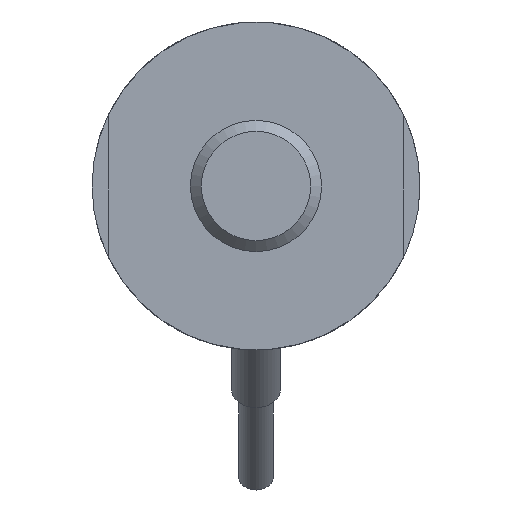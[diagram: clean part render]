
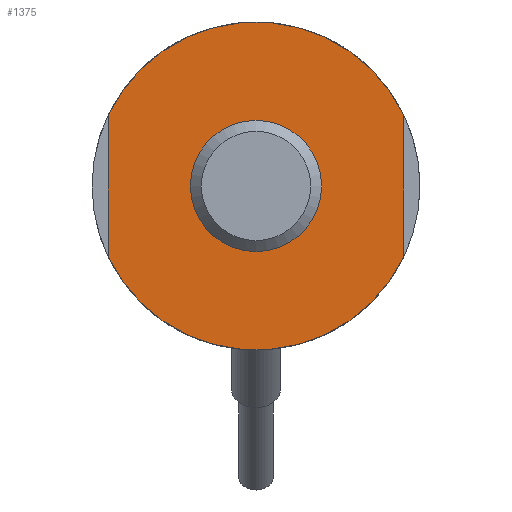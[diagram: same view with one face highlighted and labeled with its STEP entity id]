
A CAD part, left-side view. The second image highlights one B-rep face of the part: STEP entity #1375.
In plain terms, the highlighted planar face has unit normal (-1, 0, 0).
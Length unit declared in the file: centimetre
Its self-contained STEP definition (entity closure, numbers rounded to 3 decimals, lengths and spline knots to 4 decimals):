
#522=VECTOR('',#1686,1.);
#523=VECTOR('',#1688,1.);
#588=LINE('',#2552,#522);
#589=LINE('',#2554,#523);
#672=VERTEX_POINT('',#2512);
#675=VERTEX_POINT('',#2517);
#676=VERTEX_POINT('',#2519);
#679=VERTEX_POINT('',#2525);
#683=VERTEX_POINT('',#2560);
#723=CIRCLE('',#1449,1.5);
#728=CIRCLE('',#1470,0.6);
#840=EDGE_CURVE('',#675,#676,#723,.T.);
#844=EDGE_CURVE('',#679,#672,#723,.T.);
#856=EDGE_CURVE('',#675,#672,#588,.T.);
#857=EDGE_CURVE('',#679,#676,#589,.T.);
#859=EDGE_CURVE('',#683,#683,#728,.T.);
#1094=ORIENTED_EDGE('',*,*,#856,.T.);
#1095=ORIENTED_EDGE('',*,*,#844,.F.);
#1096=ORIENTED_EDGE('',*,*,#857,.T.);
#1097=ORIENTED_EDGE('',*,*,#840,.F.);
#1098=ORIENTED_EDGE('',*,*,#859,.T.);
#1210=EDGE_LOOP('',(#1094,#1095,#1096,#1097));
#1211=EDGE_LOOP('',(#1098));
#1298=FACE_BOUND('',#1210,.T.);
#1299=FACE_BOUND('',#1211,.T.);
#1375=ADVANCED_FACE('',(#1298,#1299),#2630,.T.);
#1449=AXIS2_PLACEMENT_3D('',#2518,#1649,#1650);
#1470=AXIS2_PLACEMENT_3D('',#2559,#1693,#1694);
#1471=AXIS2_PLACEMENT_3D('',#2561,#1695,$);
#1649=DIRECTION('',(1.,0.,0.));
#1650=DIRECTION('',(0.,-1.5,0.));
#1686=DIRECTION('',(0.,0.,-1.));
#1688=DIRECTION('',(0.,0.,1.));
#1693=DIRECTION('',(1.,0.,0.));
#1694=DIRECTION('',(0.,-0.6,0.));
#1695=DIRECTION('',(-1.,0.,0.));
#2512=CARTESIAN_POINT('',(-2.,1.35,-0.6538));
#2517=CARTESIAN_POINT('',(-2.,1.35,0.6538));
#2518=CARTESIAN_POINT('',(-2.,0.,0.));
#2519=CARTESIAN_POINT('',(-2.,-1.35,0.6538));
#2525=CARTESIAN_POINT('',(-2.,-1.35,-0.6538));
#2552=CARTESIAN_POINT('',(-2.,1.35,-4.9749));
#2554=CARTESIAN_POINT('',(-2.,-1.35,-4.9749));
#2559=CARTESIAN_POINT('',(-2.,0.,0.));
#2560=CARTESIAN_POINT('',(-2.,-0.6,0.));
#2561=CARTESIAN_POINT('',(-2.,-1.05,0.));
#2630=PLANE('',#1471);
